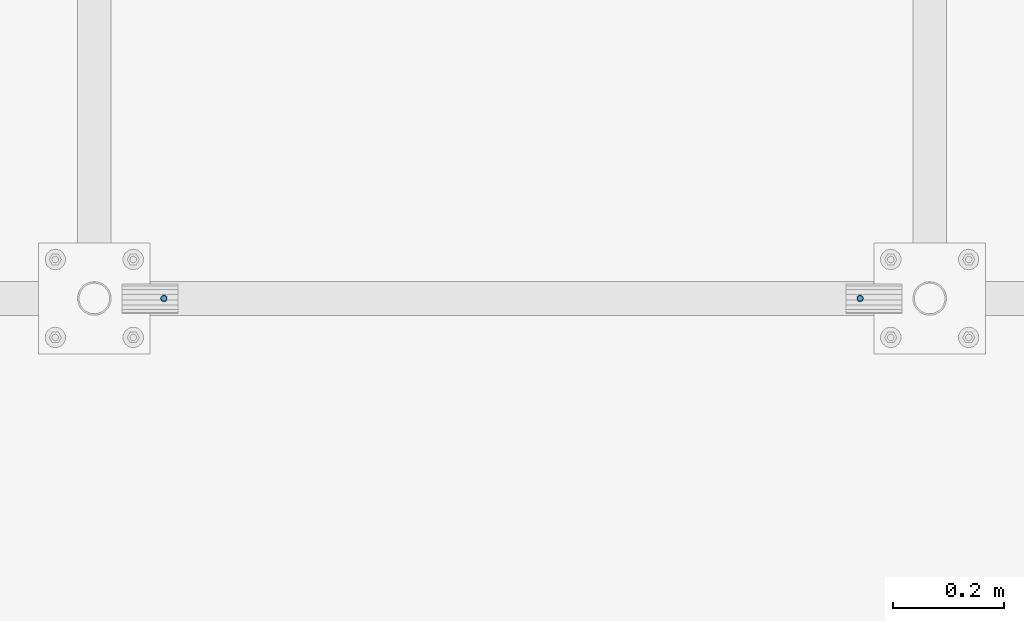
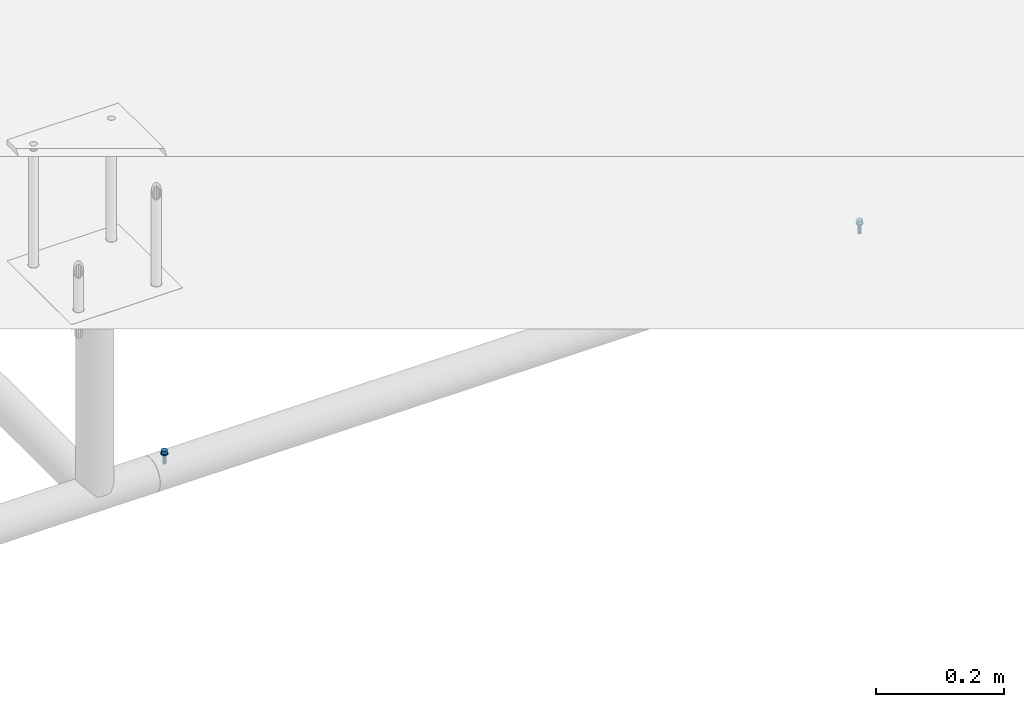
# One storey, part 10 of 30: 2 mechanical fasteners.
"""IFC2X3 building model written with IfcOpenShell, lengths in millimetres."""

from ifc_helpers import new_model, entity, si_unit, converted_unit, origin_with_axes, place, context, project, spatial, faceted_brep, element, save


model = new_model("IFC2X3")

# Units and contexts
model_context = context("Model", 3, precision=1e-09, world=origin_with_axes())
ifc_project = project(units=[si_unit("LENGTHUNIT", "METRE", prefix="MILLI"), si_unit("AREAUNIT", "SQUARE_METRE"), si_unit("VOLUMEUNIT", "CUBIC_METRE"), converted_unit("PLANEANGLEUNIT", "DEGREE", entity("IfcPlaneAngleMeasure", 0.01745329), si_unit("PLANEANGLEUNIT", "RADIAN"), dimensions=[0, 0, 0, 0, 0, 0, 0])], contexts=[model_context])

# Site, building, storey
site_placement = place(None, origin_with_axes())
site = spatial("IfcSite", under=ifc_project, at=site_placement, Name="M?nsinger Stra?e, 81477 M?nchen", CompositionType="ELEMENT")
building_placement = place(site_placement, origin_with_axes())
building = spatial("IfcBuilding", under=site, at=building_placement, Name="Struktur 1", CompositionType="ELEMENT")
storey_placement = place(building_placement, origin_with_axes())
storey = spatial("IfcBuildingStorey", under=building, at=storey_placement, Name="Default Storey", CompositionType="ELEMENT", Elevation=0.0)

# Mechanical fasteners
mechanical_fastener_1_placement = place(None, origin_with_axes())
element("IfcMechanicalFastener", 1, at=mechanical_fastener_1_placement, inside=storey, ObjectType="-", NominalDiameter=6.0, NominalLength=20.0, context=model_context, shape_type="Brep", body=[
    faceted_brep([(6025.315117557, 1491.2632594, 6141.75), (6025.315117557, 1491.2632594, 6140.15), (6025.430405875, 1490.092717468, 6140.15), (6025.430405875, 1490.092717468, 6141.75), (6025.771840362, 1488.967158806, 6140.15), (6025.771840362, 1488.967158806, 6141.75), (6026.326299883, 1487.929838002, 6140.15), (6026.326299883, 1487.929838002, 6141.75), (6027.07247687, 1487.020618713, 6140.15), (6027.07247687, 1487.020618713, 6141.75), (6027.981696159, 1486.274441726, 6140.15), (6027.981696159, 1486.274441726, 6141.75), (6029.019016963, 1485.719982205, 6140.15), (6029.019016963, 1485.719982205, 6141.75), (6030.144575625, 1485.378547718, 6140.15), (6030.144575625, 1485.378547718, 6141.75), (6031.315117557, 1485.2632594, 6140.15), (6031.315117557, 1485.2632594, 6141.75), (6032.485659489, 1485.378547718, 6140.15), (6032.485659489, 1485.378547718, 6141.75), (6033.611218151, 1485.719982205, 6140.15), (6033.611218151, 1485.719982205, 6141.75), (6034.648538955, 1486.274441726, 6140.15), (6034.648538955, 1486.274441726, 6141.75), (6035.557758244, 1487.020618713, 6140.15), (6035.557758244, 1487.020618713, 6141.75), (6036.303935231, 1487.929838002, 6140.15), (6036.303935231, 1487.929838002, 6141.75), (6036.858394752, 1488.967158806, 6140.15), (6036.858394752, 1488.967158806, 6141.75), (6037.199829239, 1490.092717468, 6140.15), (6037.199829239, 1490.092717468, 6141.75), (6037.315117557, 1491.2632594, 6140.15), (6037.315117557, 1491.2632594, 6141.75), (6037.199829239, 1492.433801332, 6140.15), (6037.199829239, 1492.433801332, 6141.75), (6036.858394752, 1493.559359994, 6140.15), (6036.858394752, 1493.559359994, 6141.75), (6036.303935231, 1494.596680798, 6140.15), (6036.303935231, 1494.596680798, 6141.75), (6035.557758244, 1495.505900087, 6140.15), (6035.557758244, 1495.505900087, 6141.75), (6034.648538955, 1496.252077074, 6140.15), (6034.648538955, 1496.252077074, 6141.75), (6033.611218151, 1496.806536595, 6140.15), (6033.611218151, 1496.806536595, 6141.75), (6032.485659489, 1497.147971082, 6140.15), (6032.485659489, 1497.147971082, 6141.75), (6031.315117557, 1497.2632594, 6140.15), (6031.315117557, 1497.2632594, 6141.75), (6030.144575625, 1497.147971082, 6140.15), (6030.144575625, 1497.147971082, 6141.75), (6029.019016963, 1496.806536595, 6140.15), (6029.019016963, 1496.806536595, 6141.75), (6027.981696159, 1496.252077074, 6140.15), (6027.981696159, 1496.252077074, 6141.75), (6027.07247687, 1495.505900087, 6140.15), (6027.07247687, 1495.505900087, 6141.75), (6026.326299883, 1494.596680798, 6140.15), (6026.326299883, 1494.596680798, 6141.75), (6025.771840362, 1493.559359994, 6140.15), (6025.771840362, 1493.559359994, 6141.75), (6025.430405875, 1492.433801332, 6140.15), (6025.430405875, 1492.433801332, 6141.75)], [[[0, 1, 2, 3]], [[3, 2, 4, 5]], [[5, 4, 6, 7]], [[7, 6, 8, 9]], [[9, 8, 10, 11]], [[11, 10, 12, 13]], [[13, 12, 14, 15]], [[15, 14, 16, 17]], [[17, 16, 18, 19]], [[19, 18, 20, 21]], [[21, 20, 22, 23]], [[23, 22, 24, 25]], [[25, 24, 26, 27]], [[27, 26, 28, 29]], [[29, 28, 30, 31]], [[31, 30, 32, 33]], [[33, 32, 34, 35]], [[35, 34, 36, 37]], [[37, 36, 38, 39]], [[39, 38, 40, 41]], [[41, 40, 42, 43]], [[43, 42, 44, 45]], [[45, 44, 46, 47]], [[47, 46, 48, 49]], [[49, 48, 50, 51]], [[51, 50, 52, 53]], [[53, 52, 54, 55]], [[55, 54, 56, 57]], [[57, 56, 58, 59]], [[59, 58, 60, 61]], [[61, 60, 62, 63]], [[63, 62, 1, 0]], [[0, 3, 5, 7, 9, 11, 13, 15, 17, 19, 21, 23, 25, 27, 29, 31, 33, 35, 37, 39, 41, 43, 45, 47, 49, 51, 53, 55, 57, 59, 61, 63]], [[1, 62, 60, 58, 56, 54, 52, 50, 48, 46, 44, 42, 40, 38, 36, 34, 32, 30, 28, 26, 24, 22, 20, 18, 16, 14, 12, 10, 8, 6, 4, 2]]]),
    faceted_brep([(6026.315117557, 1491.2632594, 6147.75), (6026.315117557, 1491.2632594, 6141.75), (6026.411191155, 1490.28780779, 6141.75), (6026.411191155, 1490.28780779, 6147.75), (6026.695719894, 1489.349842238, 6141.75), (6026.695719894, 1489.349842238, 6147.75), (6027.157769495, 1488.485408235, 6141.75), (6027.157769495, 1488.485408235, 6147.75), (6027.779583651, 1487.727725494, 6141.75), (6027.779583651, 1487.727725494, 6147.75), (6028.537266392, 1487.105911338, 6141.75), (6028.537266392, 1487.105911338, 6147.75), (6029.401700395, 1486.643861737, 6141.75), (6029.401700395, 1486.643861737, 6147.75), (6030.339665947, 1486.359332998, 6141.75), (6030.339665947, 1486.359332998, 6147.75), (6031.315117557, 1486.2632594, 6141.75), (6031.315117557, 1486.2632594, 6147.75), (6032.290569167, 1486.359332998, 6141.75), (6032.290569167, 1486.359332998, 6147.75), (6033.228534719, 1486.643861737, 6141.75), (6033.228534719, 1486.643861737, 6147.75), (6034.092968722, 1487.105911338, 6141.75), (6034.092968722, 1487.105911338, 6147.75), (6034.850651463, 1487.727725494, 6141.75), (6034.850651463, 1487.727725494, 6147.75), (6035.472465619, 1488.485408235, 6141.75), (6035.472465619, 1488.485408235, 6147.75), (6035.93451522, 1489.349842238, 6141.75), (6035.93451522, 1489.349842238, 6147.75), (6036.219043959, 1490.28780779, 6141.75), (6036.219043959, 1490.28780779, 6147.75), (6036.315117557, 1491.2632594, 6141.75), (6036.315117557, 1491.2632594, 6147.75), (6036.219043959, 1492.23871101, 6141.75), (6036.219043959, 1492.23871101, 6147.75), (6035.93451522, 1493.176676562, 6141.75), (6035.93451522, 1493.176676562, 6147.75), (6035.472465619, 1494.041110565, 6141.75), (6035.472465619, 1494.041110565, 6147.75), (6034.850651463, 1494.798793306, 6141.75), (6034.850651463, 1494.798793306, 6147.75), (6034.092968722, 1495.420607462, 6141.75), (6034.092968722, 1495.420607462, 6147.75), (6033.228534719, 1495.882657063, 6141.75), (6033.228534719, 1495.882657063, 6147.75), (6032.290569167, 1496.167185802, 6141.75), (6032.290569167, 1496.167185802, 6147.75), (6031.315117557, 1496.2632594, 6141.75), (6031.315117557, 1496.2632594, 6147.75), (6030.339665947, 1496.167185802, 6141.75), (6030.339665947, 1496.167185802, 6147.75), (6029.401700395, 1495.882657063, 6141.75), (6029.401700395, 1495.882657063, 6147.75), (6028.537266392, 1495.420607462, 6141.75), (6028.537266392, 1495.420607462, 6147.75), (6027.779583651, 1494.798793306, 6141.75), (6027.779583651, 1494.798793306, 6147.75), (6027.157769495, 1494.041110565, 6141.75), (6027.157769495, 1494.041110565, 6147.75), (6026.695719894, 1493.176676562, 6141.75), (6026.695719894, 1493.176676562, 6147.75), (6026.411191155, 1492.23871101, 6141.75), (6026.411191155, 1492.23871101, 6147.75)], [[[0, 1, 2, 3]], [[3, 2, 4, 5]], [[5, 4, 6, 7]], [[7, 6, 8, 9]], [[9, 8, 10, 11]], [[11, 10, 12, 13]], [[13, 12, 14, 15]], [[15, 14, 16, 17]], [[17, 16, 18, 19]], [[19, 18, 20, 21]], [[21, 20, 22, 23]], [[23, 22, 24, 25]], [[25, 24, 26, 27]], [[27, 26, 28, 29]], [[29, 28, 30, 31]], [[31, 30, 32, 33]], [[33, 32, 34, 35]], [[35, 34, 36, 37]], [[37, 36, 38, 39]], [[39, 38, 40, 41]], [[41, 40, 42, 43]], [[43, 42, 44, 45]], [[45, 44, 46, 47]], [[47, 46, 48, 49]], [[49, 48, 50, 51]], [[51, 50, 52, 53]], [[53, 52, 54, 55]], [[55, 54, 56, 57]], [[57, 56, 58, 59]], [[59, 58, 60, 61]], [[61, 60, 62, 63]], [[63, 62, 1, 0]], [[0, 3, 5, 7, 9, 11, 13, 15, 17, 19, 21, 23, 25, 27, 29, 31, 33, 35, 37, 39, 41, 43, 45, 47, 49, 51, 53, 55, 57, 59, 61, 63]], [[1, 62, 60, 58, 56, 54, 52, 50, 48, 46, 44, 42, 40, 38, 36, 34, 32, 30, 28, 26, 24, 22, 20, 18, 16, 14, 12, 10, 8, 6, 4, 2]]]),
    faceted_brep([(6028.315117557, 1491.2632594, 6140.15), (6028.315117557, 1491.2632594, 6130.585197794), (6028.543478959, 1490.115209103, 6130.585197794), (6028.543478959, 1490.115209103, 6140.15), (6029.193797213, 1489.141939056, 6130.585197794), (6029.193797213, 1489.141939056, 6140.15), (6030.16706726, 1488.491620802, 6130.585197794), (6030.16706726, 1488.491620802, 6140.15), (6031.315117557, 1488.2632594, 6130.585197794), (6031.315117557, 1488.2632594, 6140.15), (6032.463167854, 1488.491620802, 6130.585197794), (6032.463167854, 1488.491620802, 6140.15), (6033.436437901, 1489.141939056, 6130.585197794), (6033.436437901, 1489.141939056, 6140.15), (6034.086756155, 1490.115209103, 6130.585197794), (6034.086756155, 1490.115209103, 6140.15), (6034.315117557, 1491.2632594, 6130.585197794), (6034.315117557, 1491.2632594, 6140.15), (6034.086756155, 1492.411309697, 6130.585197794), (6034.086756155, 1492.411309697, 6140.15), (6033.436437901, 1493.384579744, 6130.585197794), (6033.436437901, 1493.384579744, 6140.15), (6032.463167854, 1494.034897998, 6130.585197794), (6032.463167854, 1494.034897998, 6140.15), (6031.315117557, 1494.2632594, 6130.585197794), (6031.315117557, 1494.2632594, 6140.15), (6030.16706726, 1494.034897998, 6130.585197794), (6030.16706726, 1494.034897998, 6140.15), (6029.193797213, 1493.384579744, 6130.585197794), (6029.193797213, 1493.384579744, 6140.15), (6028.543478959, 1492.411309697, 6130.585197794), (6028.543478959, 1492.411309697, 6140.15)], [[[0, 1, 2, 3]], [[3, 2, 4, 5]], [[5, 4, 6, 7]], [[7, 6, 8, 9]], [[9, 8, 10, 11]], [[11, 10, 12, 13]], [[13, 12, 14, 15]], [[15, 14, 16, 17]], [[17, 16, 18, 19]], [[19, 18, 20, 21]], [[21, 20, 22, 23]], [[23, 22, 24, 25]], [[25, 24, 26, 27]], [[27, 26, 28, 29]], [[29, 28, 30, 31]], [[31, 30, 1, 0]], [[0, 3, 5, 7, 9, 11, 13, 15, 17, 19, 21, 23, 25, 27, 29, 31]], [[1, 30, 28, 26, 24, 22, 20, 18, 16, 14, 12, 10, 8, 6, 4, 2]]]),
    faceted_brep([(6028.315117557, 1491.2632594, 6130.585197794), (6028.315117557, 1491.2632594, 6121.75), (6028.543478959, 1490.115209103, 6121.75), (6028.543478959, 1490.115209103, 6130.585197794), (6029.193797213, 1489.141939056, 6121.75), (6029.193797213, 1489.141939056, 6130.585197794), (6030.16706726, 1488.491620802, 6121.75), (6030.16706726, 1488.491620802, 6130.585197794), (6031.315117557, 1488.2632594, 6121.75), (6031.315117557, 1488.2632594, 6130.585197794), (6032.463167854, 1488.491620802, 6121.75), (6032.463167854, 1488.491620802, 6130.585197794), (6033.436437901, 1489.141939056, 6121.75), (6033.436437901, 1489.141939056, 6130.585197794), (6034.086756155, 1490.115209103, 6121.75), (6034.086756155, 1490.115209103, 6130.585197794), (6034.315117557, 1491.2632594, 6121.75), (6034.315117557, 1491.2632594, 6130.585197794), (6034.086756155, 1492.411309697, 6121.75), (6034.086756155, 1492.411309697, 6130.585197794), (6033.436437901, 1493.384579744, 6121.75), (6033.436437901, 1493.384579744, 6130.585197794), (6032.463167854, 1494.034897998, 6121.75), (6032.463167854, 1494.034897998, 6130.585197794), (6031.315117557, 1494.2632594, 6121.75), (6031.315117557, 1494.2632594, 6130.585197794), (6030.16706726, 1494.034897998, 6121.75), (6030.16706726, 1494.034897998, 6130.585197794), (6029.193797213, 1493.384579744, 6121.75), (6029.193797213, 1493.384579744, 6130.585197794), (6028.543478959, 1492.411309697, 6121.75), (6028.543478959, 1492.411309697, 6130.585197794)], [[[0, 1, 2, 3]], [[3, 2, 4, 5]], [[5, 4, 6, 7]], [[7, 6, 8, 9]], [[9, 8, 10, 11]], [[11, 10, 12, 13]], [[13, 12, 14, 15]], [[15, 14, 16, 17]], [[17, 16, 18, 19]], [[19, 18, 20, 21]], [[21, 20, 22, 23]], [[23, 22, 24, 25]], [[25, 24, 26, 27]], [[27, 26, 28, 29]], [[29, 28, 30, 31]], [[31, 30, 1, 0]], [[0, 3, 5, 7, 9, 11, 13, 15, 17, 19, 21, 23, 25, 27, 29, 31]], [[1, 30, 28, 26, 24, 22, 20, 18, 16, 14, 12, 10, 8, 6, 4, 2]]]),
])
mechanical_fastener_2_placement = place(None, origin_with_axes())
element("IfcMechanicalFastener", 2, at=mechanical_fastener_2_placement, inside=storey, ObjectType="-", NominalDiameter=6.0, NominalLength=20.0, context=model_context, shape_type="Brep", body=[
    faceted_brep([(7287.315117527, 1491.2632594, 6140.15), (7287.315117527, 1491.2632594, 6141.75), (7287.19982921, 1490.092717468, 6141.75), (7287.19982921, 1490.092717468, 6140.15), (7286.858394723, 1488.967158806, 6141.75), (7286.858394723, 1488.967158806, 6140.15), (7286.303935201, 1487.929838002, 6141.75), (7286.303935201, 1487.929838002, 6140.15), (7285.557758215, 1487.020618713, 6141.75), (7285.557758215, 1487.020618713, 6140.15), (7284.648538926, 1486.274441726, 6141.75), (7284.648538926, 1486.274441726, 6140.15), (7283.611218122, 1485.719982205, 6141.75), (7283.611218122, 1485.719982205, 6140.15), (7282.48565946, 1485.378547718, 6141.75), (7282.48565946, 1485.378547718, 6140.15), (7281.315117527, 1485.2632594, 6141.75), (7281.315117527, 1485.2632594, 6140.15), (7280.144575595, 1485.378547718, 6141.75), (7280.144575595, 1485.378547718, 6140.15), (7279.019016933, 1485.719982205, 6141.75), (7279.019016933, 1485.719982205, 6140.15), (7277.981696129, 1486.274441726, 6141.75), (7277.981696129, 1486.274441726, 6140.15), (7277.07247684, 1487.020618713, 6141.75), (7277.07247684, 1487.020618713, 6140.15), (7276.326299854, 1487.929838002, 6141.75), (7276.326299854, 1487.929838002, 6140.15), (7275.771840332, 1488.967158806, 6141.75), (7275.771840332, 1488.967158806, 6140.15), (7275.430405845, 1490.092717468, 6141.75), (7275.430405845, 1490.092717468, 6140.15), (7275.315117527, 1491.2632594, 6141.75), (7275.315117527, 1491.2632594, 6140.15), (7275.430405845, 1492.433801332, 6141.75), (7275.430405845, 1492.433801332, 6140.15), (7275.771840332, 1493.559359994, 6141.75), (7275.771840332, 1493.559359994, 6140.15), (7276.326299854, 1494.596680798, 6141.75), (7276.326299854, 1494.596680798, 6140.15), (7277.07247684, 1495.505900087, 6141.75), (7277.07247684, 1495.505900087, 6140.15), (7277.981696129, 1496.252077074, 6141.75), (7277.981696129, 1496.252077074, 6140.15), (7279.019016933, 1496.806536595, 6141.75), (7279.019016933, 1496.806536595, 6140.15), (7280.144575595, 1497.147971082, 6141.75), (7280.144575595, 1497.147971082, 6140.15), (7281.315117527, 1497.2632594, 6141.75), (7281.315117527, 1497.2632594, 6140.15), (7282.48565946, 1497.147971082, 6141.75), (7282.48565946, 1497.147971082, 6140.15), (7283.611218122, 1496.806536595, 6141.75), (7283.611218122, 1496.806536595, 6140.15), (7284.648538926, 1496.252077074, 6141.75), (7284.648538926, 1496.252077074, 6140.15), (7285.557758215, 1495.505900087, 6141.75), (7285.557758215, 1495.505900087, 6140.15), (7286.303935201, 1494.596680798, 6141.75), (7286.303935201, 1494.596680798, 6140.15), (7286.858394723, 1493.559359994, 6141.75), (7286.858394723, 1493.559359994, 6140.15), (7287.19982921, 1492.433801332, 6141.75), (7287.19982921, 1492.433801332, 6140.15)], [[[0, 1, 2, 3]], [[3, 2, 4, 5]], [[5, 4, 6, 7]], [[7, 6, 8, 9]], [[9, 8, 10, 11]], [[11, 10, 12, 13]], [[13, 12, 14, 15]], [[15, 14, 16, 17]], [[17, 16, 18, 19]], [[19, 18, 20, 21]], [[21, 20, 22, 23]], [[23, 22, 24, 25]], [[25, 24, 26, 27]], [[27, 26, 28, 29]], [[29, 28, 30, 31]], [[31, 30, 32, 33]], [[33, 32, 34, 35]], [[35, 34, 36, 37]], [[37, 36, 38, 39]], [[39, 38, 40, 41]], [[41, 40, 42, 43]], [[43, 42, 44, 45]], [[45, 44, 46, 47]], [[47, 46, 48, 49]], [[49, 48, 50, 51]], [[51, 50, 52, 53]], [[53, 52, 54, 55]], [[55, 54, 56, 57]], [[57, 56, 58, 59]], [[59, 58, 60, 61]], [[61, 60, 62, 63]], [[63, 62, 1, 0]], [[2, 1, 62, 60, 58, 56, 54, 52, 50, 48, 46, 44, 42, 40, 38, 36, 34, 32, 30, 28, 26, 24, 22, 20, 18, 16, 14, 12, 10, 8, 6, 4]], [[63, 0, 3, 5, 7, 9, 11, 13, 15, 17, 19, 21, 23, 25, 27, 29, 31, 33, 35, 37, 39, 41, 43, 45, 47, 49, 51, 53, 55, 57, 59, 61]]]),
    faceted_brep([(7286.315117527, 1491.2632594, 6141.75), (7286.315117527, 1491.2632594, 6147.75), (7286.219043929, 1490.28780779, 6147.75), (7286.219043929, 1490.28780779, 6141.75), (7285.93451519, 1489.349842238, 6147.75), (7285.93451519, 1489.349842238, 6141.75), (7285.472465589, 1488.485408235, 6147.75), (7285.472465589, 1488.485408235, 6141.75), (7284.850651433, 1487.727725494, 6147.75), (7284.850651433, 1487.727725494, 6141.75), (7284.092968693, 1487.105911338, 6147.75), (7284.092968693, 1487.105911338, 6141.75), (7283.228534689, 1486.643861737, 6147.75), (7283.228534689, 1486.643861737, 6141.75), (7282.290569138, 1486.359332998, 6147.75), (7282.290569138, 1486.359332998, 6141.75), (7281.315117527, 1486.2632594, 6147.75), (7281.315117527, 1486.2632594, 6141.75), (7280.339665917, 1486.359332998, 6147.75), (7280.339665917, 1486.359332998, 6141.75), (7279.401700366, 1486.643861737, 6147.75), (7279.401700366, 1486.643861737, 6141.75), (7278.537266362, 1487.105911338, 6147.75), (7278.537266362, 1487.105911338, 6141.75), (7277.779583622, 1487.727725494, 6147.75), (7277.779583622, 1487.727725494, 6141.75), (7277.157769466, 1488.485408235, 6147.75), (7277.157769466, 1488.485408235, 6141.75), (7276.695719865, 1489.349842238, 6147.75), (7276.695719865, 1489.349842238, 6141.75), (7276.411191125, 1490.28780779, 6147.75), (7276.411191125, 1490.28780779, 6141.75), (7276.315117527, 1491.2632594, 6147.75), (7276.315117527, 1491.2632594, 6141.75), (7276.411191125, 1492.23871101, 6147.75), (7276.411191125, 1492.23871101, 6141.75), (7276.695719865, 1493.176676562, 6147.75), (7276.695719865, 1493.176676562, 6141.75), (7277.157769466, 1494.041110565, 6147.75), (7277.157769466, 1494.041110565, 6141.75), (7277.779583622, 1494.798793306, 6147.75), (7277.779583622, 1494.798793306, 6141.75), (7278.537266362, 1495.420607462, 6147.75), (7278.537266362, 1495.420607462, 6141.75), (7279.401700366, 1495.882657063, 6147.75), (7279.401700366, 1495.882657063, 6141.75), (7280.339665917, 1496.167185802, 6147.75), (7280.339665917, 1496.167185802, 6141.75), (7281.315117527, 1496.2632594, 6147.75), (7281.315117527, 1496.2632594, 6141.75), (7282.290569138, 1496.167185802, 6147.75), (7282.290569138, 1496.167185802, 6141.75), (7283.228534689, 1495.882657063, 6147.75), (7283.228534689, 1495.882657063, 6141.75), (7284.092968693, 1495.420607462, 6147.75), (7284.092968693, 1495.420607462, 6141.75), (7284.850651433, 1494.798793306, 6147.75), (7284.850651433, 1494.798793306, 6141.75), (7285.472465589, 1494.041110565, 6147.75), (7285.472465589, 1494.041110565, 6141.75), (7285.93451519, 1493.176676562, 6147.75), (7285.93451519, 1493.176676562, 6141.75), (7286.219043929, 1492.23871101, 6147.75), (7286.219043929, 1492.23871101, 6141.75)], [[[0, 1, 2, 3]], [[3, 2, 4, 5]], [[5, 4, 6, 7]], [[7, 6, 8, 9]], [[9, 8, 10, 11]], [[11, 10, 12, 13]], [[13, 12, 14, 15]], [[15, 14, 16, 17]], [[17, 16, 18, 19]], [[19, 18, 20, 21]], [[21, 20, 22, 23]], [[23, 22, 24, 25]], [[25, 24, 26, 27]], [[27, 26, 28, 29]], [[29, 28, 30, 31]], [[31, 30, 32, 33]], [[33, 32, 34, 35]], [[35, 34, 36, 37]], [[37, 36, 38, 39]], [[39, 38, 40, 41]], [[41, 40, 42, 43]], [[43, 42, 44, 45]], [[45, 44, 46, 47]], [[47, 46, 48, 49]], [[49, 48, 50, 51]], [[51, 50, 52, 53]], [[53, 52, 54, 55]], [[55, 54, 56, 57]], [[57, 56, 58, 59]], [[59, 58, 60, 61]], [[61, 60, 62, 63]], [[63, 62, 1, 0]], [[2, 1, 62, 60, 58, 56, 54, 52, 50, 48, 46, 44, 42, 40, 38, 36, 34, 32, 30, 28, 26, 24, 22, 20, 18, 16, 14, 12, 10, 8, 6, 4]], [[63, 0, 3, 5, 7, 9, 11, 13, 15, 17, 19, 21, 23, 25, 27, 29, 31, 33, 35, 37, 39, 41, 43, 45, 47, 49, 51, 53, 55, 57, 59, 61]]]),
    faceted_brep([(7284.315117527, 1491.2632594, 6130.585197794), (7284.315117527, 1491.2632594, 6140.15), (7284.086756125, 1490.115209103, 6140.15), (7284.086756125, 1490.115209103, 6130.585197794), (7283.436437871, 1489.141939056, 6140.15), (7283.436437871, 1489.141939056, 6130.585197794), (7282.463167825, 1488.491620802, 6140.15), (7282.463167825, 1488.491620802, 6130.585197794), (7281.315117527, 1488.2632594, 6140.15), (7281.315117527, 1488.2632594, 6130.585197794), (7280.16706723, 1488.491620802, 6140.15), (7280.16706723, 1488.491620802, 6130.585197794), (7279.193797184, 1489.141939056, 6140.15), (7279.193797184, 1489.141939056, 6130.585197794), (7278.54347893, 1490.115209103, 6140.15), (7278.54347893, 1490.115209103, 6130.585197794), (7278.315117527, 1491.2632594, 6140.15), (7278.315117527, 1491.2632594, 6130.585197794), (7278.54347893, 1492.411309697, 6140.15), (7278.54347893, 1492.411309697, 6130.585197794), (7279.193797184, 1493.384579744, 6140.15), (7279.193797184, 1493.384579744, 6130.585197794), (7280.16706723, 1494.034897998, 6140.15), (7280.16706723, 1494.034897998, 6130.585197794), (7281.315117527, 1494.2632594, 6140.15), (7281.315117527, 1494.2632594, 6130.585197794), (7282.463167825, 1494.034897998, 6140.15), (7282.463167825, 1494.034897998, 6130.585197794), (7283.436437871, 1493.384579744, 6140.15), (7283.436437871, 1493.384579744, 6130.585197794), (7284.086756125, 1492.411309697, 6140.15), (7284.086756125, 1492.411309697, 6130.585197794)], [[[0, 1, 2, 3]], [[3, 2, 4, 5]], [[5, 4, 6, 7]], [[7, 6, 8, 9]], [[9, 8, 10, 11]], [[11, 10, 12, 13]], [[13, 12, 14, 15]], [[15, 14, 16, 17]], [[17, 16, 18, 19]], [[19, 18, 20, 21]], [[21, 20, 22, 23]], [[23, 22, 24, 25]], [[25, 24, 26, 27]], [[27, 26, 28, 29]], [[29, 28, 30, 31]], [[31, 30, 1, 0]], [[2, 1, 30, 28, 26, 24, 22, 20, 18, 16, 14, 12, 10, 8, 6, 4]], [[31, 0, 3, 5, 7, 9, 11, 13, 15, 17, 19, 21, 23, 25, 27, 29]]]),
    faceted_brep([(7284.315117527, 1491.2632594, 6121.75), (7284.315117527, 1491.2632594, 6130.585197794), (7284.086756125, 1490.115209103, 6130.585197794), (7284.086756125, 1490.115209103, 6121.75), (7283.436437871, 1489.141939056, 6130.585197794), (7283.436437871, 1489.141939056, 6121.75), (7282.463167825, 1488.491620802, 6130.585197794), (7282.463167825, 1488.491620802, 6121.75), (7281.315117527, 1488.2632594, 6130.585197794), (7281.315117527, 1488.2632594, 6121.75), (7280.16706723, 1488.491620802, 6130.585197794), (7280.16706723, 1488.491620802, 6121.75), (7279.193797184, 1489.141939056, 6130.585197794), (7279.193797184, 1489.141939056, 6121.75), (7278.54347893, 1490.115209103, 6130.585197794), (7278.54347893, 1490.115209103, 6121.75), (7278.315117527, 1491.2632594, 6130.585197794), (7278.315117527, 1491.2632594, 6121.75), (7278.54347893, 1492.411309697, 6130.585197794), (7278.54347893, 1492.411309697, 6121.75), (7279.193797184, 1493.384579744, 6130.585197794), (7279.193797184, 1493.384579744, 6121.75), (7280.16706723, 1494.034897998, 6130.585197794), (7280.16706723, 1494.034897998, 6121.75), (7281.315117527, 1494.2632594, 6130.585197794), (7281.315117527, 1494.2632594, 6121.75), (7282.463167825, 1494.034897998, 6130.585197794), (7282.463167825, 1494.034897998, 6121.75), (7283.436437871, 1493.384579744, 6130.585197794), (7283.436437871, 1493.384579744, 6121.75), (7284.086756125, 1492.411309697, 6130.585197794), (7284.086756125, 1492.411309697, 6121.75)], [[[0, 1, 2, 3]], [[3, 2, 4, 5]], [[5, 4, 6, 7]], [[7, 6, 8, 9]], [[9, 8, 10, 11]], [[11, 10, 12, 13]], [[13, 12, 14, 15]], [[15, 14, 16, 17]], [[17, 16, 18, 19]], [[19, 18, 20, 21]], [[21, 20, 22, 23]], [[23, 22, 24, 25]], [[25, 24, 26, 27]], [[27, 26, 28, 29]], [[29, 28, 30, 31]], [[31, 30, 1, 0]], [[2, 1, 30, 28, 26, 24, 22, 20, 18, 16, 14, 12, 10, 8, 6, 4]], [[31, 0, 3, 5, 7, 9, 11, 13, 15, 17, 19, 21, 23, 25, 27, 29]]]),
])

save(model, "model.ifc")
